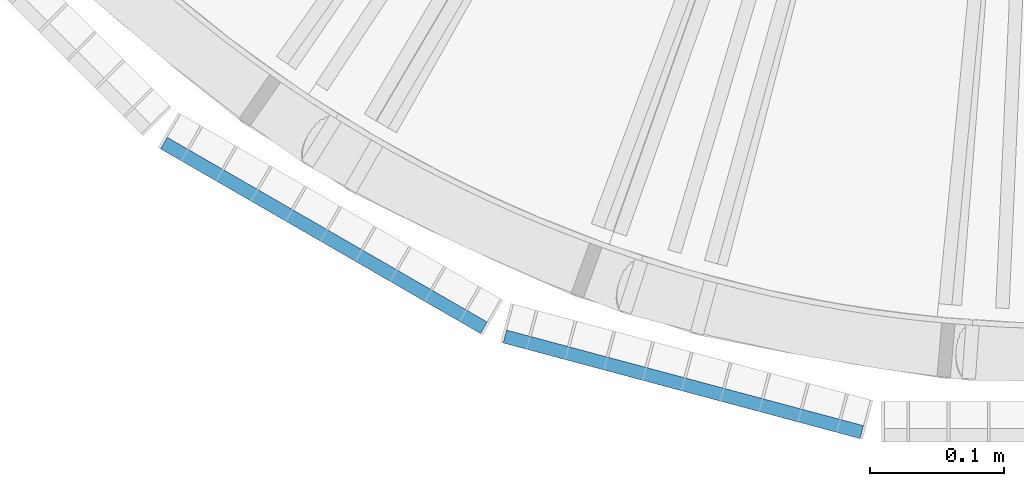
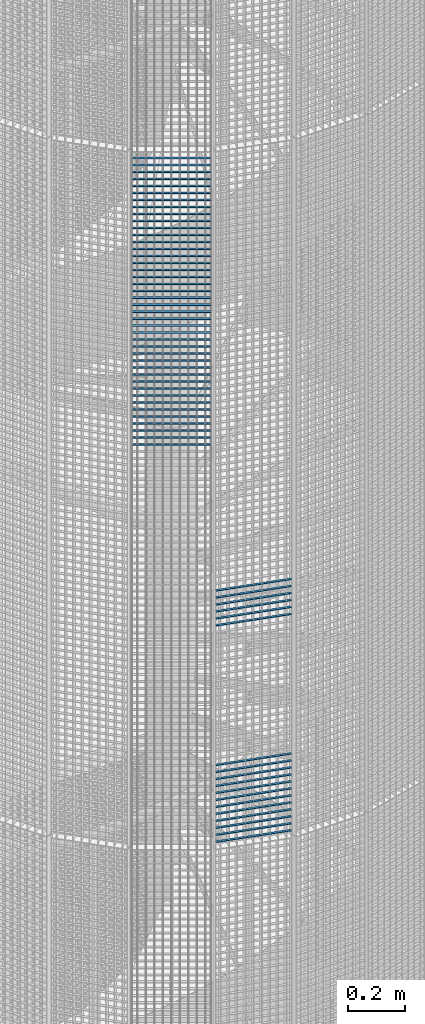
# One storey, part 151 of 1148: 60 beams, 2 elements without a shape of their own.
"""IFC2X3 building model written with IfcOpenShell, lengths in millimetres."""

from ifc_helpers import new_model, si_unit, frame, origin_with_axes, origin_2d_with_axis, place, context, subcontext, project, spatial, rectangle, extrude, material, type_object, element, aggregate, save


model = new_model("IFC2X3")

# Units and contexts
model_context = context("Model", 3, precision=1e-05, world=origin_with_axes())
body_context = subcontext(model_context, "Body", "Model", "MODEL_VIEW")
ifc_project = project(units=[si_unit("LENGTHUNIT", "METRE", prefix="MILLI"), si_unit("AREAUNIT", "SQUARE_METRE"), si_unit("VOLUMEUNIT", "CUBIC_METRE"), si_unit("MASSUNIT", "GRAM", prefix="KILO"), si_unit("TIMEUNIT", "SECOND"), si_unit("PLANEANGLEUNIT", "RADIAN"), si_unit("SOLIDANGLEUNIT", "STERADIAN"), si_unit("THERMODYNAMICTEMPERATUREUNIT", "DEGREE_CELSIUS"), si_unit("LUMINOUSINTENSITYUNIT", "LUMEN")], contexts=[model_context])

# Site, building, storey
site_placement = place(None, origin_with_axes())
site = spatial("IfcSite", under=ifc_project, at=site_placement, Name="Undefined", CompositionType="ELEMENT")
building_placement = place(site_placement, origin_with_axes())
building = spatial("IfcBuilding", under=site, at=building_placement, Name="Undefined", CompositionType="ELEMENT")
storey_placement = place(building_placement, origin_with_axes())
storey = spatial("IfcBuildingStorey", under=building, at=storey_placement, Name="Undefined", CompositionType="ELEMENT", Elevation=0.0)

# Assembly, beams
assembly_1_placement = place(storey_placement, origin_with_axes())
assembly_1 = element("IfcElementAssembly", 1, at=assembly_1_placement, inside=storey, Name="BORDURE", AssemblyPlace="NOTDEFINED", PredefinedType="NOTDEFINED")
ifc_material = material(Name="STEEL/S235JR")
beam_type = type_object("IfcBeamType", Name="PL2*10", PredefinedType="NOTDEFINED")
beam_1_placement = place(assembly_1_placement, frame((-421.483733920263, -1039.82309522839, 9360.0), z_axis=(-0.258819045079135, -0.965925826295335, 0.0), x_axis=(0.965925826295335, -0.258819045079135, 0.0)))
beam_1 = element("IfcBeam", 2, at=beam_1_placement, type_object=beam_type, material=ifc_material, Name="ENTRETOISE", context=body_context, shape_type="SweptSolid", body=[
    extrude(rectangle(XDim=2.0, YDim=10.0, at=origin_2d_with_axis()), frame((275.999999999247, 9.09494701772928e-13, 1.53210777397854e-14), z_axis=(-1.0, 0.0, 0.0), x_axis=(0.0, -1.0, 0.0)), (0.0, 0.0, 1.0), 276.0),
])
beam_2_placement = place(assembly_1_placement, frame((-421.483733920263, -1039.82309522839, 9330.0), z_axis=(-0.258819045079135, -0.965925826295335, 0.0), x_axis=(0.965925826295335, -0.258819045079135, 0.0)))
beam_2 = element("IfcBeam", 3, at=beam_2_placement, type_object=beam_type, material=ifc_material, Name="ENTRETOISE", context=body_context, shape_type="SweptSolid", body=[
    extrude(rectangle(XDim=2.0, YDim=10.0, at=origin_2d_with_axis()), frame((275.999999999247, 9.09494701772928e-13, 1.53210777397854e-14), z_axis=(-1.0, 0.0, 0.0), x_axis=(0.0, -1.0, 0.0)), (0.0, 0.0, 1.0), 276.0),
])
beam_3_placement = place(assembly_1_placement, frame((-421.483733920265, -1039.82309522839, 9960.0), z_axis=(-0.258819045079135, -0.965925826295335, 0.0), x_axis=(0.965925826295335, -0.258819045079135, 0.0)))
beam_3 = element("IfcBeam", 4, at=beam_3_placement, type_object=beam_type, material=ifc_material, Name="ENTRETOISE", context=body_context, shape_type="SweptSolid", body=[
    extrude(rectangle(XDim=2.0, YDim=10.0, at=origin_2d_with_axis()), frame((275.999999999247, 9.09494701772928e-13, 1.53210777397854e-14), z_axis=(-1.0, 0.0, 0.0), x_axis=(0.0, -1.0, 0.0)), (0.0, 0.0, 1.0), 276.0),
])
beam_4_placement = place(assembly_1_placement, frame((-421.483733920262, -1039.82309522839, 9300.0), z_axis=(-0.258819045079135, -0.965925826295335, 0.0), x_axis=(0.965925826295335, -0.258819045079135, 0.0)))
beam_4 = element("IfcBeam", 5, at=beam_4_placement, type_object=beam_type, material=ifc_material, Name="ENTRETOISE", context=body_context, shape_type="SweptSolid", body=[
    extrude(rectangle(XDim=2.0, YDim=10.0, at=origin_2d_with_axis()), frame((275.999999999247, 9.09494701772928e-13, 1.53210777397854e-14), z_axis=(-1.0, 0.0, 0.0), x_axis=(0.0, -1.0, 0.0)), (0.0, 0.0, 1.0), 276.0),
])
beam_5_placement = place(assembly_1_placement, frame((-421.483733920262, -1039.82309522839, 9270.0), z_axis=(-0.258819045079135, -0.965925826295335, 0.0), x_axis=(0.965925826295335, -0.258819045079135, 0.0)))
beam_5 = element("IfcBeam", 6, at=beam_5_placement, type_object=beam_type, material=ifc_material, Name="ENTRETOISE", context=body_context, shape_type="SweptSolid", body=[
    extrude(rectangle(XDim=2.0, YDim=10.0, at=origin_2d_with_axis()), frame((275.999999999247, 9.09494701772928e-13, 1.53210777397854e-14), z_axis=(-1.0, 0.0, 0.0), x_axis=(0.0, -1.0, 0.0)), (0.0, 0.0, 1.0), 276.0),
])
beam_6_placement = place(assembly_1_placement, frame((-421.483733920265, -1039.82309522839, 9990.0), z_axis=(-0.258819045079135, -0.965925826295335, 0.0), x_axis=(0.965925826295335, -0.258819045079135, 0.0)))
beam_6 = element("IfcBeam", 7, at=beam_6_placement, type_object=beam_type, material=ifc_material, Name="ENTRETOISE", context=body_context, shape_type="SweptSolid", body=[
    extrude(rectangle(XDim=2.0, YDim=10.0, at=origin_2d_with_axis()), frame((275.999999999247, 9.09494701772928e-13, 1.53210777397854e-14), z_axis=(-1.0, 0.0, 0.0), x_axis=(0.0, -1.0, 0.0)), (0.0, 0.0, 1.0), 276.0),
])
beam_7_placement = place(assembly_1_placement, frame((-421.483733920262, -1039.82309522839, 9240.0), z_axis=(-0.258819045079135, -0.965925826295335, 0.0), x_axis=(0.965925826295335, -0.258819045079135, 0.0)))
beam_7 = element("IfcBeam", 8, at=beam_7_placement, type_object=beam_type, material=ifc_material, Name="ENTRETOISE", context=body_context, shape_type="SweptSolid", body=[
    extrude(rectangle(XDim=2.0, YDim=10.0, at=origin_2d_with_axis()), frame((275.999999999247, 9.09494701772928e-13, 1.53210777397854e-14), z_axis=(-1.0, 0.0, 0.0), x_axis=(0.0, -1.0, 0.0)), (0.0, 0.0, 1.0), 276.0),
])
beam_8_placement = place(assembly_1_placement, frame((-421.483733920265, -1039.82309522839, 10020.0), z_axis=(-0.258819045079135, -0.965925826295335, 0.0), x_axis=(0.965925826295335, -0.258819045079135, 0.0)))
beam_8 = element("IfcBeam", 9, at=beam_8_placement, type_object=beam_type, material=ifc_material, Name="ENTRETOISE", context=body_context, shape_type="SweptSolid", body=[
    extrude(rectangle(XDim=2.0, YDim=10.0, at=origin_2d_with_axis()), frame((275.999999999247, 9.09494701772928e-13, 1.53210777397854e-14), z_axis=(-1.0, 0.0, 0.0), x_axis=(0.0, -1.0, 0.0)), (0.0, 0.0, 1.0), 276.0),
])
beam_9_placement = place(assembly_1_placement, frame((-421.483733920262, -1039.82309522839, 9210.0), z_axis=(-0.258819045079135, -0.965925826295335, 0.0), x_axis=(0.965925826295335, -0.258819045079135, 0.0)))
beam_9 = element("IfcBeam", 10, at=beam_9_placement, type_object=beam_type, material=ifc_material, Name="ENTRETOISE", context=body_context, shape_type="SweptSolid", body=[
    extrude(rectangle(XDim=2.0, YDim=10.0, at=origin_2d_with_axis()), frame((275.999999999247, 9.09494701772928e-13, 1.53210777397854e-14), z_axis=(-1.0, 0.0, 0.0), x_axis=(0.0, -1.0, 0.0)), (0.0, 0.0, 1.0), 276.0),
])
beam_10_placement = place(assembly_1_placement, frame((-421.483733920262, -1039.82309522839, 9180.0), z_axis=(-0.258819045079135, -0.965925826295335, 0.0), x_axis=(0.965925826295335, -0.258819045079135, 0.0)))
beam_10 = element("IfcBeam", 11, at=beam_10_placement, type_object=beam_type, material=ifc_material, Name="ENTRETOISE", context=body_context, shape_type="SweptSolid", body=[
    extrude(rectangle(XDim=2.0, YDim=10.0, at=origin_2d_with_axis()), frame((275.999999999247, 9.09494701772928e-13, 1.53210777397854e-14), z_axis=(-1.0, 0.0, 0.0), x_axis=(0.0, -1.0, 0.0)), (0.0, 0.0, 1.0), 276.0),
])
beam_11_placement = place(assembly_1_placement, frame((-421.483733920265, -1039.82309522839, 10050.0), z_axis=(-0.258819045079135, -0.965925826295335, 0.0), x_axis=(0.965925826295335, -0.258819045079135, 0.0)))
beam_11 = element("IfcBeam", 12, at=beam_11_placement, type_object=beam_type, material=ifc_material, Name="ENTRETOISE", context=body_context, shape_type="SweptSolid", body=[
    extrude(rectangle(XDim=2.0, YDim=10.0, at=origin_2d_with_axis()), frame((275.999999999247, 9.09494701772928e-13, 1.53210777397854e-14), z_axis=(-1.0, 0.0, 0.0), x_axis=(0.0, -1.0, 0.0)), (0.0, 0.0, 1.0), 276.0),
])
beam_12_placement = place(assembly_1_placement, frame((-421.483733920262, -1039.82309522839, 9150.0), z_axis=(-0.258819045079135, -0.965925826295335, 0.0), x_axis=(0.965925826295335, -0.258819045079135, 0.0)))
beam_12 = element("IfcBeam", 13, at=beam_12_placement, type_object=beam_type, material=ifc_material, Name="ENTRETOISE", context=body_context, shape_type="SweptSolid", body=[
    extrude(rectangle(XDim=2.0, YDim=10.0, at=origin_2d_with_axis()), frame((275.999999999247, 9.09494701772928e-13, 1.53210777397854e-14), z_axis=(-1.0, 0.0, 0.0), x_axis=(0.0, -1.0, 0.0)), (0.0, 0.0, 1.0), 276.0),
])
beam_13_placement = place(assembly_1_placement, frame((-421.483733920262, -1039.82309522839, 9120.0), z_axis=(-0.258819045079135, -0.965925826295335, 0.0), x_axis=(0.965925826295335, -0.258819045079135, 0.0)))
beam_13 = element("IfcBeam", 14, at=beam_13_placement, type_object=beam_type, material=ifc_material, Name="ENTRETOISE", context=body_context, shape_type="SweptSolid", body=[
    extrude(rectangle(XDim=2.0, YDim=10.0, at=origin_2d_with_axis()), frame((275.999999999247, 9.09494701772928e-13, 1.53210777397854e-14), z_axis=(-1.0, 0.0, 0.0), x_axis=(0.0, -1.0, 0.0)), (0.0, 0.0, 1.0), 276.0),
])
beam_14_placement = place(assembly_1_placement, frame((-421.483733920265, -1039.82309522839, 10080.0), z_axis=(-0.258819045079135, -0.965925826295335, 0.0), x_axis=(0.965925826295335, -0.258819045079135, 0.0)))
beam_14 = element("IfcBeam", 15, at=beam_14_placement, type_object=beam_type, material=ifc_material, Name="ENTRETOISE", context=body_context, shape_type="SweptSolid", body=[
    extrude(rectangle(XDim=2.0, YDim=10.0, at=origin_2d_with_axis()), frame((275.999999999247, 9.09494701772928e-13, 1.53210777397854e-14), z_axis=(-1.0, 0.0, 0.0), x_axis=(0.0, -1.0, 0.0)), (0.0, 0.0, 1.0), 276.0),
])
beam_15_placement = place(assembly_1_placement, frame((-421.483733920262, -1039.82309522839, 9090.0), z_axis=(-0.258819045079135, -0.965925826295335, 0.0), x_axis=(0.965925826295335, -0.258819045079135, 0.0)))
beam_15 = element("IfcBeam", 16, at=beam_15_placement, type_object=beam_type, material=ifc_material, Name="ENTRETOISE", context=body_context, shape_type="SweptSolid", body=[
    extrude(rectangle(XDim=2.0, YDim=10.0, at=origin_2d_with_axis()), frame((275.999999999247, 9.09494701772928e-13, 1.53210777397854e-14), z_axis=(-1.0, 0.0, 0.0), x_axis=(0.0, -1.0, 0.0)), (0.0, 0.0, 1.0), 276.0),
])
beam_16_placement = place(assembly_1_placement, frame((-421.483733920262, -1039.82309522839, 9060.0), z_axis=(-0.258819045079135, -0.965925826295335, 0.0), x_axis=(0.965925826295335, -0.258819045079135, 0.0)))
beam_16 = element("IfcBeam", 17, at=beam_16_placement, type_object=beam_type, material=ifc_material, Name="ENTRETOISE", context=body_context, shape_type="SweptSolid", body=[
    extrude(rectangle(XDim=2.0, YDim=10.0, at=origin_2d_with_axis()), frame((275.999999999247, 9.09494701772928e-13, 1.53210777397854e-14), z_axis=(-1.0, 0.0, 0.0), x_axis=(0.0, -1.0, 0.0)), (0.0, 0.0, 1.0), 276.0),
])
beam_17_placement = place(assembly_1_placement, frame((-421.483733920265, -1039.82309522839, 10110.0), z_axis=(-0.258819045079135, -0.965925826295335, 0.0), x_axis=(0.965925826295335, -0.258819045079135, 0.0)))
beam_17 = element("IfcBeam", 18, at=beam_17_placement, type_object=beam_type, material=ifc_material, Name="ENTRETOISE", context=body_context, shape_type="SweptSolid", body=[
    extrude(rectangle(XDim=2.0, YDim=10.0, at=origin_2d_with_axis()), frame((275.999999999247, 9.09494701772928e-13, 1.53210777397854e-14), z_axis=(-1.0, 0.0, 0.0), x_axis=(0.0, -1.0, 0.0)), (0.0, 0.0, 1.0), 276.0),
])
beam_18_placement = place(assembly_1_placement, frame((-421.48373392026, -1039.82309522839, 9030.0), z_axis=(-0.258819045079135, -0.965925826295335, 0.0), x_axis=(0.965925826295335, -0.258819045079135, 0.0)))
beam_18 = element("IfcBeam", 19, at=beam_18_placement, type_object=beam_type, material=ifc_material, Name="ENTRETOISE", context=body_context, shape_type="SweptSolid", body=[
    extrude(rectangle(XDim=2.0, YDim=10.0, at=origin_2d_with_axis()), frame((275.999999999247, 9.09494701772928e-13, 1.53210777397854e-14), z_axis=(-1.0, 0.0, 0.0), x_axis=(0.0, -1.0, 0.0)), (0.0, 0.0, 1.0), 276.0),
])
aggregate(assembly_1, [beam_1, beam_2, beam_3, beam_4, beam_5, beam_6, beam_7, beam_8, beam_9, beam_10, beam_11, beam_12, beam_13, beam_14, beam_15, beam_16, beam_17, beam_18])

assembly_2_placement = place(storey_placement, origin_with_axes())
assembly_2 = element("IfcElementAssembly", 20, at=assembly_2_placement, inside=storey, Name="BORDURE", AssemblyPlace="NOTDEFINED", PredefinedType="NOTDEFINED")
beam_19_placement = place(assembly_2_placement, frame((-676.248044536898, -895.303964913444, 11970.0), z_axis=(-0.49999999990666, -0.866025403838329, 0.0), x_axis=(0.866025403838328, -0.49999999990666, 0.0)))
beam_19 = element("IfcBeam", 21, at=beam_19_placement, type_object=beam_type, material=ifc_material, Name="ENTRETOISE", context=body_context, shape_type="SweptSolid", body=[
    extrude(rectangle(XDim=2.0, YDim=10.0, at=origin_2d_with_axis()), frame((275.999999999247, 9.09494701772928e-13, 1.53210777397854e-14), z_axis=(-1.0, 0.0, 0.0), x_axis=(0.0, -1.0, 0.0)), (0.0, 0.0, 1.0), 276.0),
])
beam_20_placement = place(assembly_2_placement, frame((-676.248044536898, -895.303964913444, 11940.0), z_axis=(-0.49999999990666, -0.866025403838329, 0.0), x_axis=(0.866025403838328, -0.49999999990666, 0.0)))
beam_20 = element("IfcBeam", 22, at=beam_20_placement, type_object=beam_type, material=ifc_material, Name="ENTRETOISE", context=body_context, shape_type="SweptSolid", body=[
    extrude(rectangle(XDim=2.0, YDim=10.0, at=origin_2d_with_axis()), frame((275.999999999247, 9.09494701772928e-13, 1.53210777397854e-14), z_axis=(-1.0, 0.0, 0.0), x_axis=(0.0, -1.0, 0.0)), (0.0, 0.0, 1.0), 276.0),
])
beam_21_placement = place(assembly_2_placement, frame((-676.248044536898, -895.303964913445, 11910.0), z_axis=(-0.49999999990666, -0.866025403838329, 0.0), x_axis=(0.866025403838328, -0.49999999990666, 0.0)))
beam_21 = element("IfcBeam", 23, at=beam_21_placement, type_object=beam_type, material=ifc_material, Name="ENTRETOISE", context=body_context, shape_type="SweptSolid", body=[
    extrude(rectangle(XDim=2.0, YDim=10.0, at=origin_2d_with_axis()), frame((275.999999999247, 9.09494701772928e-13, 1.53210777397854e-14), z_axis=(-1.0, 0.0, 0.0), x_axis=(0.0, -1.0, 0.0)), (0.0, 0.0, 1.0), 276.0),
])
beam_22_placement = place(assembly_2_placement, frame((-676.248044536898, -895.303964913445, 11880.0), z_axis=(-0.49999999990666, -0.866025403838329, 0.0), x_axis=(0.866025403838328, -0.49999999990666, 0.0)))
beam_22 = element("IfcBeam", 24, at=beam_22_placement, type_object=beam_type, material=ifc_material, Name="ENTRETOISE", context=body_context, shape_type="SweptSolid", body=[
    extrude(rectangle(XDim=2.0, YDim=10.0, at=origin_2d_with_axis()), frame((275.999999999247, 9.09494701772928e-13, 1.53210777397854e-14), z_axis=(-1.0, 0.0, 0.0), x_axis=(0.0, -1.0, 0.0)), (0.0, 0.0, 1.0), 276.0),
])
beam_23_placement = place(assembly_2_placement, frame((-676.248044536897, -895.303964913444, 11850.0), z_axis=(-0.49999999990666, -0.866025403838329, 0.0), x_axis=(0.866025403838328, -0.49999999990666, 0.0)))
beam_23 = element("IfcBeam", 25, at=beam_23_placement, type_object=beam_type, material=ifc_material, Name="ENTRETOISE", context=body_context, shape_type="SweptSolid", body=[
    extrude(rectangle(XDim=2.0, YDim=10.0, at=origin_2d_with_axis()), frame((275.999999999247, 9.09494701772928e-13, 1.53210777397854e-14), z_axis=(-1.0, 0.0, 0.0), x_axis=(0.0, -1.0, 0.0)), (0.0, 0.0, 1.0), 276.0),
])
beam_24_placement = place(assembly_2_placement, frame((-676.248044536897, -895.303964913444, 11820.0), z_axis=(-0.49999999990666, -0.866025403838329, 0.0), x_axis=(0.866025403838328, -0.49999999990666, 0.0)))
beam_24 = element("IfcBeam", 26, at=beam_24_placement, type_object=beam_type, material=ifc_material, Name="ENTRETOISE", context=body_context, shape_type="SweptSolid", body=[
    extrude(rectangle(XDim=2.0, YDim=10.0, at=origin_2d_with_axis()), frame((275.999999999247, 9.09494701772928e-13, 1.53210777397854e-14), z_axis=(-1.0, 0.0, 0.0), x_axis=(0.0, -1.0, 0.0)), (0.0, 0.0, 1.0), 276.0),
])
beam_25_placement = place(assembly_2_placement, frame((-676.248044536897, -895.303964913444, 11790.0), z_axis=(-0.49999999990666, -0.866025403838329, 0.0), x_axis=(0.866025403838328, -0.49999999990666, 0.0)))
beam_25 = element("IfcBeam", 27, at=beam_25_placement, type_object=beam_type, material=ifc_material, Name="ENTRETOISE", context=body_context, shape_type="SweptSolid", body=[
    extrude(rectangle(XDim=2.0, YDim=10.0, at=origin_2d_with_axis()), frame((275.999999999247, 9.09494701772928e-13, 1.53210777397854e-14), z_axis=(-1.0, 0.0, 0.0), x_axis=(0.0, -1.0, 0.0)), (0.0, 0.0, 1.0), 276.0),
])
beam_26_placement = place(assembly_2_placement, frame((-676.248044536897, -895.303964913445, 11760.0), z_axis=(-0.49999999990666, -0.866025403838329, 0.0), x_axis=(0.866025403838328, -0.49999999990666, 0.0)))
beam_26 = element("IfcBeam", 28, at=beam_26_placement, type_object=beam_type, material=ifc_material, Name="ENTRETOISE", context=body_context, shape_type="SweptSolid", body=[
    extrude(rectangle(XDim=2.0, YDim=10.0, at=origin_2d_with_axis()), frame((275.999999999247, 9.09494701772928e-13, 1.53210777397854e-14), z_axis=(-1.0, 0.0, 0.0), x_axis=(0.0, -1.0, 0.0)), (0.0, 0.0, 1.0), 276.0),
])
beam_27_placement = place(assembly_2_placement, frame((-676.248044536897, -895.303964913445, 11730.0), z_axis=(-0.49999999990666, -0.866025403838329, 0.0), x_axis=(0.866025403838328, -0.49999999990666, 0.0)))
beam_27 = element("IfcBeam", 29, at=beam_27_placement, type_object=beam_type, material=ifc_material, Name="ENTRETOISE", context=body_context, shape_type="SweptSolid", body=[
    extrude(rectangle(XDim=2.0, YDim=10.0, at=origin_2d_with_axis()), frame((275.999999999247, 9.09494701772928e-13, 1.53210777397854e-14), z_axis=(-1.0, 0.0, 0.0), x_axis=(0.0, -1.0, 0.0)), (0.0, 0.0, 1.0), 276.0),
])
beam_28_placement = place(assembly_2_placement, frame((-676.248044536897, -895.303964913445, 11700.0), z_axis=(-0.49999999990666, -0.866025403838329, 0.0), x_axis=(0.866025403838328, -0.49999999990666, 0.0)))
beam_28 = element("IfcBeam", 30, at=beam_28_placement, type_object=beam_type, material=ifc_material, Name="ENTRETOISE", context=body_context, shape_type="SweptSolid", body=[
    extrude(rectangle(XDim=2.0, YDim=10.0, at=origin_2d_with_axis()), frame((275.999999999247, 9.09494701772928e-13, 1.53210777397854e-14), z_axis=(-1.0, 0.0, 0.0), x_axis=(0.0, -1.0, 0.0)), (0.0, 0.0, 1.0), 276.0),
])
beam_29_placement = place(assembly_2_placement, frame((-676.248044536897, -895.303964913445, 11670.0), z_axis=(-0.49999999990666, -0.866025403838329, 0.0), x_axis=(0.866025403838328, -0.49999999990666, 0.0)))
beam_29 = element("IfcBeam", 31, at=beam_29_placement, type_object=beam_type, material=ifc_material, Name="ENTRETOISE", context=body_context, shape_type="SweptSolid", body=[
    extrude(rectangle(XDim=2.0, YDim=10.0, at=origin_2d_with_axis()), frame((275.999999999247, 9.09494701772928e-13, 1.53210777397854e-14), z_axis=(-1.0, 0.0, 0.0), x_axis=(0.0, -1.0, 0.0)), (0.0, 0.0, 1.0), 276.0),
])
beam_30_placement = place(assembly_2_placement, frame((-676.248044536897, -895.303964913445, 11640.0), z_axis=(-0.49999999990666, -0.866025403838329, 0.0), x_axis=(0.866025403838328, -0.49999999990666, 0.0)))
beam_30 = element("IfcBeam", 32, at=beam_30_placement, type_object=beam_type, material=ifc_material, Name="ENTRETOISE", context=body_context, shape_type="SweptSolid", body=[
    extrude(rectangle(XDim=2.0, YDim=10.0, at=origin_2d_with_axis()), frame((275.999999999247, 9.09494701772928e-13, 1.53210777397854e-14), z_axis=(-1.0, 0.0, 0.0), x_axis=(0.0, -1.0, 0.0)), (0.0, 0.0, 1.0), 276.0),
])
beam_31_placement = place(assembly_2_placement, frame((-676.248044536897, -895.303964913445, 11610.0), z_axis=(-0.49999999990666, -0.866025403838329, 0.0), x_axis=(0.866025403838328, -0.49999999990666, 0.0)))
beam_31 = element("IfcBeam", 33, at=beam_31_placement, type_object=beam_type, material=ifc_material, Name="ENTRETOISE", context=body_context, shape_type="SweptSolid", body=[
    extrude(rectangle(XDim=2.0, YDim=10.0, at=origin_2d_with_axis()), frame((275.999999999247, 9.09494701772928e-13, 1.53210777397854e-14), z_axis=(-1.0, 0.0, 0.0), x_axis=(0.0, -1.0, 0.0)), (0.0, 0.0, 1.0), 276.0),
])
beam_32_placement = place(assembly_2_placement, frame((-676.248044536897, -895.303964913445, 11580.0), z_axis=(-0.49999999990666, -0.866025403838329, 0.0), x_axis=(0.866025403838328, -0.49999999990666, 0.0)))
beam_32 = element("IfcBeam", 34, at=beam_32_placement, type_object=beam_type, material=ifc_material, Name="ENTRETOISE", context=body_context, shape_type="SweptSolid", body=[
    extrude(rectangle(XDim=2.0, YDim=10.0, at=origin_2d_with_axis()), frame((275.999999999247, 9.09494701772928e-13, 1.53210777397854e-14), z_axis=(-1.0, 0.0, 0.0), x_axis=(0.0, -1.0, 0.0)), (0.0, 0.0, 1.0), 276.0),
])
beam_33_placement = place(assembly_2_placement, frame((-676.248044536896, -895.303964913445, 11550.0), z_axis=(-0.49999999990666, -0.866025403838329, 0.0), x_axis=(0.866025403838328, -0.49999999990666, 0.0)))
beam_33 = element("IfcBeam", 35, at=beam_33_placement, type_object=beam_type, material=ifc_material, Name="ENTRETOISE", context=body_context, shape_type="SweptSolid", body=[
    extrude(rectangle(XDim=2.0, YDim=10.0, at=origin_2d_with_axis()), frame((275.999999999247, 9.09494701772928e-13, 1.53210777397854e-14), z_axis=(-1.0, 0.0, 0.0), x_axis=(0.0, -1.0, 0.0)), (0.0, 0.0, 1.0), 276.0),
])
beam_34_placement = place(assembly_2_placement, frame((-676.248044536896, -895.303964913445, 11520.0), z_axis=(-0.49999999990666, -0.866025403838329, 0.0), x_axis=(0.866025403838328, -0.49999999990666, 0.0)))
beam_34 = element("IfcBeam", 36, at=beam_34_placement, type_object=beam_type, material=ifc_material, Name="ENTRETOISE", context=body_context, shape_type="SweptSolid", body=[
    extrude(rectangle(XDim=2.0, YDim=10.0, at=origin_2d_with_axis()), frame((275.999999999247, 9.09494701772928e-13, 1.53210777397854e-14), z_axis=(-1.0, 0.0, 0.0), x_axis=(0.0, -1.0, 0.0)), (0.0, 0.0, 1.0), 276.0),
])
beam_35_placement = place(assembly_2_placement, frame((-676.248044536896, -895.303964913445, 11490.0), z_axis=(-0.49999999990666, -0.866025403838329, 0.0), x_axis=(0.866025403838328, -0.49999999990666, 0.0)))
beam_35 = element("IfcBeam", 37, at=beam_35_placement, type_object=beam_type, material=ifc_material, Name="ENTRETOISE", context=body_context, shape_type="SweptSolid", body=[
    extrude(rectangle(XDim=2.0, YDim=10.0, at=origin_2d_with_axis()), frame((275.999999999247, 9.09494701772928e-13, 1.53210777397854e-14), z_axis=(-1.0, 0.0, 0.0), x_axis=(0.0, -1.0, 0.0)), (0.0, 0.0, 1.0), 276.0),
])
beam_36_placement = place(assembly_2_placement, frame((-676.248044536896, -895.303964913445, 11460.0), z_axis=(-0.49999999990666, -0.866025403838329, 0.0), x_axis=(0.866025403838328, -0.49999999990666, 0.0)))
beam_36 = element("IfcBeam", 38, at=beam_36_placement, type_object=beam_type, material=ifc_material, Name="ENTRETOISE", context=body_context, shape_type="SweptSolid", body=[
    extrude(rectangle(XDim=2.0, YDim=10.0, at=origin_2d_with_axis()), frame((275.999999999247, 9.09494701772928e-13, 1.53210777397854e-14), z_axis=(-1.0, 0.0, 0.0), x_axis=(0.0, -1.0, 0.0)), (0.0, 0.0, 1.0), 276.0),
])
beam_37_placement = place(assembly_2_placement, frame((-676.248044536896, -895.303964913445, 11430.0), z_axis=(-0.49999999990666, -0.866025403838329, 0.0), x_axis=(0.866025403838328, -0.49999999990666, 0.0)))
beam_37 = element("IfcBeam", 39, at=beam_37_placement, type_object=beam_type, material=ifc_material, Name="ENTRETOISE", context=body_context, shape_type="SweptSolid", body=[
    extrude(rectangle(XDim=2.0, YDim=10.0, at=origin_2d_with_axis()), frame((275.999999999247, 9.09494701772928e-13, 1.53210777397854e-14), z_axis=(-1.0, 0.0, 0.0), x_axis=(0.0, -1.0, 0.0)), (0.0, 0.0, 1.0), 276.0),
])
beam_38_placement = place(assembly_2_placement, frame((-676.248044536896, -895.303964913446, 11400.0), z_axis=(-0.49999999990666, -0.866025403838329, 0.0), x_axis=(0.866025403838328, -0.49999999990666, 0.0)))
beam_38 = element("IfcBeam", 40, at=beam_38_placement, type_object=beam_type, material=ifc_material, Name="ENTRETOISE", context=body_context, shape_type="SweptSolid", body=[
    extrude(rectangle(XDim=2.0, YDim=10.0, at=origin_2d_with_axis()), frame((275.999999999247, 9.09494701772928e-13, 1.53210777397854e-14), z_axis=(-1.0, 0.0, 0.0), x_axis=(0.0, -1.0, 0.0)), (0.0, 0.0, 1.0), 276.0),
])
beam_39_placement = place(assembly_2_placement, frame((-676.248044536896, -895.303964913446, 11370.0), z_axis=(-0.49999999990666, -0.866025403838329, 0.0), x_axis=(0.866025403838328, -0.49999999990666, 0.0)))
beam_39 = element("IfcBeam", 41, at=beam_39_placement, type_object=beam_type, material=ifc_material, Name="ENTRETOISE", context=body_context, shape_type="SweptSolid", body=[
    extrude(rectangle(XDim=2.0, YDim=10.0, at=origin_2d_with_axis()), frame((275.999999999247, 9.09494701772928e-13, 1.53210777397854e-14), z_axis=(-1.0, 0.0, 0.0), x_axis=(0.0, -1.0, 0.0)), (0.0, 0.0, 1.0), 276.0),
])
beam_40_placement = place(assembly_2_placement, frame((-676.248044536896, -895.303964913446, 11340.0), z_axis=(-0.49999999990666, -0.866025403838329, 0.0), x_axis=(0.866025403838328, -0.49999999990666, 0.0)))
beam_40 = element("IfcBeam", 42, at=beam_40_placement, type_object=beam_type, material=ifc_material, Name="ENTRETOISE", context=body_context, shape_type="SweptSolid", body=[
    extrude(rectangle(XDim=2.0, YDim=10.0, at=origin_2d_with_axis()), frame((275.999999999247, 9.09494701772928e-13, 1.53210777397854e-14), z_axis=(-1.0, 0.0, 0.0), x_axis=(0.0, -1.0, 0.0)), (0.0, 0.0, 1.0), 276.0),
])
beam_41_placement = place(assembly_2_placement, frame((-676.248044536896, -895.303964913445, 11310.0), z_axis=(-0.49999999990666, -0.866025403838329, 0.0), x_axis=(0.866025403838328, -0.49999999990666, 0.0)))
beam_41 = element("IfcBeam", 43, at=beam_41_placement, type_object=beam_type, material=ifc_material, Name="ENTRETOISE", context=body_context, shape_type="SweptSolid", body=[
    extrude(rectangle(XDim=2.0, YDim=10.0, at=origin_2d_with_axis()), frame((275.999999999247, 9.09494701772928e-13, 1.53210777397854e-14), z_axis=(-1.0, 0.0, 0.0), x_axis=(0.0, -1.0, 0.0)), (0.0, 0.0, 1.0), 276.0),
])
beam_42_placement = place(assembly_2_placement, frame((-676.248044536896, -895.303964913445, 11280.0), z_axis=(-0.49999999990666, -0.866025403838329, 0.0), x_axis=(0.866025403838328, -0.49999999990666, 0.0)))
beam_42 = element("IfcBeam", 44, at=beam_42_placement, type_object=beam_type, material=ifc_material, Name="ENTRETOISE", context=body_context, shape_type="SweptSolid", body=[
    extrude(rectangle(XDim=2.0, YDim=10.0, at=origin_2d_with_axis()), frame((275.999999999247, 9.09494701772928e-13, 1.53210777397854e-14), z_axis=(-1.0, 0.0, 0.0), x_axis=(0.0, -1.0, 0.0)), (0.0, 0.0, 1.0), 276.0),
])
beam_43_placement = place(assembly_2_placement, frame((-676.248044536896, -895.303964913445, 11250.0), z_axis=(-0.49999999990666, -0.866025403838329, 0.0), x_axis=(0.866025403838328, -0.49999999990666, 0.0)))
beam_43 = element("IfcBeam", 45, at=beam_43_placement, type_object=beam_type, material=ifc_material, Name="ENTRETOISE", context=body_context, shape_type="SweptSolid", body=[
    extrude(rectangle(XDim=2.0, YDim=10.0, at=origin_2d_with_axis()), frame((275.999999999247, 9.09494701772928e-13, 1.53210777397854e-14), z_axis=(-1.0, 0.0, 0.0), x_axis=(0.0, -1.0, 0.0)), (0.0, 0.0, 1.0), 276.0),
])
beam_44_placement = place(assembly_2_placement, frame((-676.248044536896, -895.303964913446, 11220.0), z_axis=(-0.49999999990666, -0.866025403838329, 0.0), x_axis=(0.866025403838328, -0.49999999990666, 0.0)))
beam_44 = element("IfcBeam", 46, at=beam_44_placement, type_object=beam_type, material=ifc_material, Name="ENTRETOISE", context=body_context, shape_type="SweptSolid", body=[
    extrude(rectangle(XDim=2.0, YDim=10.0, at=origin_2d_with_axis()), frame((275.999999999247, 9.09494701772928e-13, 1.53210777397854e-14), z_axis=(-1.0, 0.0, 0.0), x_axis=(0.0, -1.0, 0.0)), (0.0, 0.0, 1.0), 276.0),
])
beam_45_placement = place(assembly_2_placement, frame((-676.248044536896, -895.303964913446, 11190.0), z_axis=(-0.49999999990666, -0.866025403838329, 0.0), x_axis=(0.866025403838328, -0.49999999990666, 0.0)))
beam_45 = element("IfcBeam", 47, at=beam_45_placement, type_object=beam_type, material=ifc_material, Name="ENTRETOISE", context=body_context, shape_type="SweptSolid", body=[
    extrude(rectangle(XDim=2.0, YDim=10.0, at=origin_2d_with_axis()), frame((275.999999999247, 9.09494701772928e-13, 1.53210777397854e-14), z_axis=(-1.0, 0.0, 0.0), x_axis=(0.0, -1.0, 0.0)), (0.0, 0.0, 1.0), 276.0),
])
beam_46_placement = place(assembly_2_placement, frame((-676.248044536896, -895.303964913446, 11160.0), z_axis=(-0.49999999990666, -0.866025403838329, 0.0), x_axis=(0.866025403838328, -0.49999999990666, 0.0)))
beam_46 = element("IfcBeam", 48, at=beam_46_placement, type_object=beam_type, material=ifc_material, Name="ENTRETOISE", context=body_context, shape_type="SweptSolid", body=[
    extrude(rectangle(XDim=2.0, YDim=10.0, at=origin_2d_with_axis()), frame((275.999999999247, 9.09494701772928e-13, 1.53210777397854e-14), z_axis=(-1.0, 0.0, 0.0), x_axis=(0.0, -1.0, 0.0)), (0.0, 0.0, 1.0), 276.0),
])
beam_47_placement = place(assembly_2_placement, frame((-676.248044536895, -895.303964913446, 11130.0), z_axis=(-0.49999999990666, -0.866025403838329, 0.0), x_axis=(0.866025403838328, -0.49999999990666, 0.0)))
beam_47 = element("IfcBeam", 49, at=beam_47_placement, type_object=beam_type, material=ifc_material, Name="ENTRETOISE", context=body_context, shape_type="SweptSolid", body=[
    extrude(rectangle(XDim=2.0, YDim=10.0, at=origin_2d_with_axis()), frame((275.999999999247, 9.09494701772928e-13, 1.53210777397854e-14), z_axis=(-1.0, 0.0, 0.0), x_axis=(0.0, -1.0, 0.0)), (0.0, 0.0, 1.0), 276.0),
])
beam_48_placement = place(assembly_2_placement, frame((-676.248044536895, -895.303964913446, 11100.0), z_axis=(-0.49999999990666, -0.866025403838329, 0.0), x_axis=(0.866025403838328, -0.49999999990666, 0.0)))
beam_48 = element("IfcBeam", 50, at=beam_48_placement, type_object=beam_type, material=ifc_material, Name="ENTRETOISE", context=body_context, shape_type="SweptSolid", body=[
    extrude(rectangle(XDim=2.0, YDim=10.0, at=origin_2d_with_axis()), frame((275.999999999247, 9.09494701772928e-13, 1.53210777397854e-14), z_axis=(-1.0, 0.0, 0.0), x_axis=(0.0, -1.0, 0.0)), (0.0, 0.0, 1.0), 276.0),
])
beam_49_placement = place(assembly_2_placement, frame((-676.248044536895, -895.303964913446, 11070.0), z_axis=(-0.49999999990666, -0.866025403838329, 0.0), x_axis=(0.866025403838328, -0.49999999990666, 0.0)))
beam_49 = element("IfcBeam", 51, at=beam_49_placement, type_object=beam_type, material=ifc_material, Name="ENTRETOISE", context=body_context, shape_type="SweptSolid", body=[
    extrude(rectangle(XDim=2.0, YDim=10.0, at=origin_2d_with_axis()), frame((275.999999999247, 9.09494701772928e-13, 1.53210777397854e-14), z_axis=(-1.0, 0.0, 0.0), x_axis=(0.0, -1.0, 0.0)), (0.0, 0.0, 1.0), 276.0),
])
beam_50_placement = place(assembly_2_placement, frame((-676.248044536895, -895.303964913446, 11040.0), z_axis=(-0.49999999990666, -0.866025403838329, 0.0), x_axis=(0.866025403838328, -0.49999999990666, 0.0)))
beam_50 = element("IfcBeam", 52, at=beam_50_placement, type_object=beam_type, material=ifc_material, Name="ENTRETOISE", context=body_context, shape_type="SweptSolid", body=[
    extrude(rectangle(XDim=2.0, YDim=10.0, at=origin_2d_with_axis()), frame((275.999999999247, 9.09494701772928e-13, 1.53210777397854e-14), z_axis=(-1.0, 0.0, 0.0), x_axis=(0.0, -1.0, 0.0)), (0.0, 0.0, 1.0), 276.0),
])
beam_51_placement = place(assembly_2_placement, frame((-676.248044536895, -895.303964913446, 11010.0), z_axis=(-0.49999999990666, -0.866025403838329, 0.0), x_axis=(0.866025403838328, -0.49999999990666, 0.0)))
beam_51 = element("IfcBeam", 53, at=beam_51_placement, type_object=beam_type, material=ifc_material, Name="ENTRETOISE", context=body_context, shape_type="SweptSolid", body=[
    extrude(rectangle(XDim=2.0, YDim=10.0, at=origin_2d_with_axis()), frame((275.999999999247, 9.09494701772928e-13, 1.53210777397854e-14), z_axis=(-1.0, 0.0, 0.0), x_axis=(0.0, -1.0, 0.0)), (0.0, 0.0, 1.0), 276.0),
])
beam_52_placement = place(assembly_2_placement, frame((-676.248044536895, -895.303964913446, 10980.0), z_axis=(-0.49999999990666, -0.866025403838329, 0.0), x_axis=(0.866025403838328, -0.49999999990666, 0.0)))
beam_52 = element("IfcBeam", 54, at=beam_52_placement, type_object=beam_type, material=ifc_material, Name="ENTRETOISE", context=body_context, shape_type="SweptSolid", body=[
    extrude(rectangle(XDim=2.0, YDim=10.0, at=origin_2d_with_axis()), frame((275.999999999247, 9.09494701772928e-13, 1.53210777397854e-14), z_axis=(-1.0, 0.0, 0.0), x_axis=(0.0, -1.0, 0.0)), (0.0, 0.0, 1.0), 276.0),
])
beam_53_placement = place(assembly_2_placement, frame((-676.248044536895, -895.303964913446, 10950.0), z_axis=(-0.49999999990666, -0.866025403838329, 0.0), x_axis=(0.866025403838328, -0.49999999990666, 0.0)))
beam_53 = element("IfcBeam", 55, at=beam_53_placement, type_object=beam_type, material=ifc_material, Name="ENTRETOISE", context=body_context, shape_type="SweptSolid", body=[
    extrude(rectangle(XDim=2.0, YDim=10.0, at=origin_2d_with_axis()), frame((275.999999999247, 9.09494701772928e-13, 1.53210777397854e-14), z_axis=(-1.0, 0.0, 0.0), x_axis=(0.0, -1.0, 0.0)), (0.0, 0.0, 1.0), 276.0),
])
beam_54_placement = place(assembly_2_placement, frame((-676.248044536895, -895.303964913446, 10920.0), z_axis=(-0.49999999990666, -0.866025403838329, 0.0), x_axis=(0.866025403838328, -0.49999999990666, 0.0)))
beam_54 = element("IfcBeam", 56, at=beam_54_placement, type_object=beam_type, material=ifc_material, Name="ENTRETOISE", context=body_context, shape_type="SweptSolid", body=[
    extrude(rectangle(XDim=2.0, YDim=10.0, at=origin_2d_with_axis()), frame((275.999999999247, 9.09494701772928e-13, 1.53210777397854e-14), z_axis=(-1.0, 0.0, 0.0), x_axis=(0.0, -1.0, 0.0)), (0.0, 0.0, 1.0), 276.0),
])
beam_55_placement = place(assembly_2_placement, frame((-676.248044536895, -895.303964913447, 10890.0), z_axis=(-0.49999999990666, -0.866025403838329, 0.0), x_axis=(0.866025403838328, -0.49999999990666, 0.0)))
beam_55 = element("IfcBeam", 57, at=beam_55_placement, type_object=beam_type, material=ifc_material, Name="ENTRETOISE", context=body_context, shape_type="SweptSolid", body=[
    extrude(rectangle(XDim=2.0, YDim=10.0, at=origin_2d_with_axis()), frame((275.999999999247, 9.09494701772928e-13, 1.53210777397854e-14), z_axis=(-1.0, 0.0, 0.0), x_axis=(0.0, -1.0, 0.0)), (0.0, 0.0, 1.0), 276.0),
])
beam_56_placement = place(assembly_2_placement, frame((-676.248044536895, -895.303964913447, 10860.0), z_axis=(-0.49999999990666, -0.866025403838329, 0.0), x_axis=(0.866025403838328, -0.49999999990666, 0.0)))
beam_56 = element("IfcBeam", 58, at=beam_56_placement, type_object=beam_type, material=ifc_material, Name="ENTRETOISE", context=body_context, shape_type="SweptSolid", body=[
    extrude(rectangle(XDim=2.0, YDim=10.0, at=origin_2d_with_axis()), frame((275.999999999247, 9.09494701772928e-13, 1.53210777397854e-14), z_axis=(-1.0, 0.0, 0.0), x_axis=(0.0, -1.0, 0.0)), (0.0, 0.0, 1.0), 276.0),
])
beam_57_placement = place(assembly_2_placement, frame((-676.248044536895, -895.303964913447, 10830.0), z_axis=(-0.49999999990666, -0.866025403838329, 0.0), x_axis=(0.866025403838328, -0.49999999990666, 0.0)))
beam_57 = element("IfcBeam", 59, at=beam_57_placement, type_object=beam_type, material=ifc_material, Name="ENTRETOISE", context=body_context, shape_type="SweptSolid", body=[
    extrude(rectangle(XDim=2.0, YDim=10.0, at=origin_2d_with_axis()), frame((275.999999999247, 9.09494701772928e-13, 1.53210777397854e-14), z_axis=(-1.0, 0.0, 0.0), x_axis=(0.0, -1.0, 0.0)), (0.0, 0.0, 1.0), 276.0),
])
beam_58_placement = place(assembly_2_placement, frame((-676.248044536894, -895.303964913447, 10800.0), z_axis=(-0.49999999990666, -0.866025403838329, 0.0), x_axis=(0.866025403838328, -0.49999999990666, 0.0)))
beam_58 = element("IfcBeam", 60, at=beam_58_placement, type_object=beam_type, material=ifc_material, Name="ENTRETOISE", context=body_context, shape_type="SweptSolid", body=[
    extrude(rectangle(XDim=2.0, YDim=10.0, at=origin_2d_with_axis()), frame((275.999999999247, 9.09494701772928e-13, 1.53210777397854e-14), z_axis=(-1.0, 0.0, 0.0), x_axis=(0.0, -1.0, 0.0)), (0.0, 0.0, 1.0), 276.0),
])
beam_59_placement = place(assembly_2_placement, frame((-676.248044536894, -895.303964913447, 10770.0), z_axis=(-0.49999999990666, -0.866025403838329, 0.0), x_axis=(0.866025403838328, -0.49999999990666, 0.0)))
beam_59 = element("IfcBeam", 61, at=beam_59_placement, type_object=beam_type, material=ifc_material, Name="ENTRETOISE", context=body_context, shape_type="SweptSolid", body=[
    extrude(rectangle(XDim=2.0, YDim=10.0, at=origin_2d_with_axis()), frame((275.999999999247, 9.09494701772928e-13, 1.53210777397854e-14), z_axis=(-1.0, 0.0, 0.0), x_axis=(0.0, -1.0, 0.0)), (0.0, 0.0, 1.0), 276.0),
])
beam_60_placement = place(assembly_2_placement, frame((-676.248044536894, -895.303964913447, 10740.0), z_axis=(-0.49999999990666, -0.866025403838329, 0.0), x_axis=(0.866025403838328, -0.49999999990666, 0.0)))
beam_60 = element("IfcBeam", 62, at=beam_60_placement, type_object=beam_type, material=ifc_material, Name="ENTRETOISE", context=body_context, shape_type="SweptSolid", body=[
    extrude(rectangle(XDim=2.0, YDim=10.0, at=origin_2d_with_axis()), frame((275.999999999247, 9.09494701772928e-13, 1.53210777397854e-14), z_axis=(-1.0, 0.0, 0.0), x_axis=(0.0, -1.0, 0.0)), (0.0, 0.0, 1.0), 276.0),
])
aggregate(assembly_2, [beam_19, beam_20, beam_21, beam_22, beam_23, beam_24, beam_25, beam_26, beam_27, beam_28, beam_29, beam_30, beam_31, beam_32, beam_33, beam_34, beam_35, beam_36, beam_37, beam_38, beam_39, beam_40, beam_41, beam_42, beam_43, beam_44, beam_45, beam_46, beam_47, beam_48, beam_49, beam_50, beam_51, beam_52, beam_53, beam_54, beam_55, beam_56, beam_57, beam_58, beam_59, beam_60])

save(model, "model.ifc")
